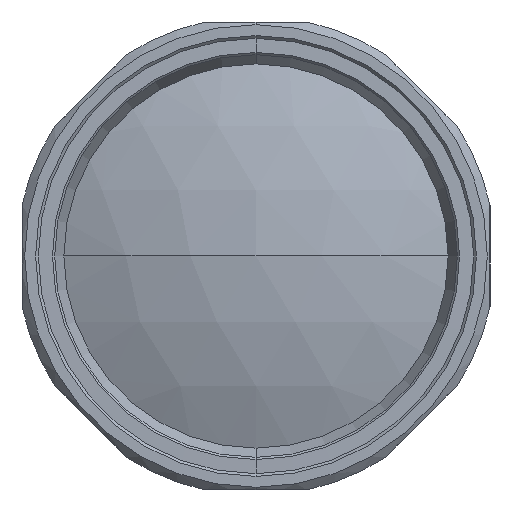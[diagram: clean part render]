
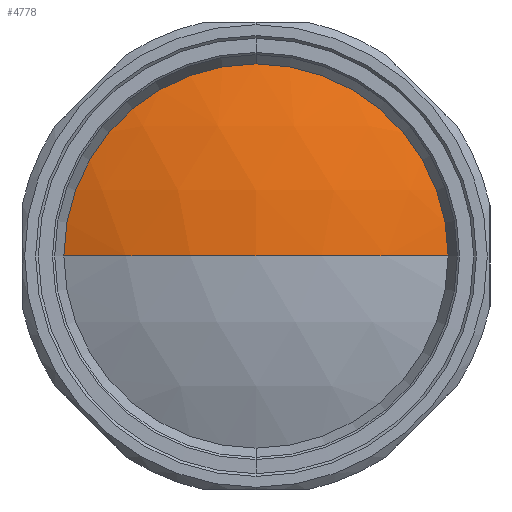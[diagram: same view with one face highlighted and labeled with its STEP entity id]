
A CAD part, left-side view. The second image highlights one B-rep face of the part: STEP entity #4778.
In plain terms, the highlighted spherical face has radius 44.86 mm.
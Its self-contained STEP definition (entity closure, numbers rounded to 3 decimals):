
#35 = ORIENTED_EDGE ( 'NONE', *, *, #2235, .F. ) ;
#138 = AXIS2_PLACEMENT_3D ( 'NONE', #5263, #1984, #4864 ) ;
#156 = ORIENTED_EDGE ( 'NONE', *, *, #1044, .T. ) ;
#544 = AXIS2_PLACEMENT_3D ( 'NONE', #1603, #5334, #3662 ) ;
#552 = AXIS2_PLACEMENT_3D ( 'NONE', #3385, #2563, #1356 ) ;
#778 = CARTESIAN_POINT ( 'NONE',  ( -12.572, 21.802, 49.734 ) ) ;
#790 = VERTEX_POINT ( 'NONE', #3766 ) ;
#794 = CIRCLE ( 'NONE', #4973, 44.86 ) ;
#954 = VERTEX_POINT ( 'NONE', #778 ) ;
#1044 = EDGE_CURVE ( 'NONE', #2493, #790, #1533, .T. ) ;
#1192 = AXIS2_PLACEMENT_3D ( 'NONE', #4480, #4898, #4537 ) ;
#1324 = FACE_OUTER_BOUND ( 'NONE', #3274, .T. ) ;
#1329 = CIRCLE ( 'NONE', #544, 17.65 ) ;
#1356 = DIRECTION ( 'NONE',  ( 0., 0., -1. ) ) ;
#1533 = CIRCLE ( 'NONE', #1192, 44.86 ) ;
#1551 = ORIENTED_EDGE ( 'NONE', *, *, #4447, .F. ) ;
#1603 = CARTESIAN_POINT ( 'NONE',  ( -12.572, 4.152, 49.734 ) ) ;
#1742 = CIRCLE ( 'NONE', #552, 17.65 ) ;
#1984 = DIRECTION ( 'NONE',  ( 0., 0., 1. ) ) ;
#2027 = CARTESIAN_POINT ( 'NONE',  ( -12.572, 4.152, 67.384 ) ) ;
#2235 = EDGE_CURVE ( 'NONE', #4262, #790, #1329, .T. ) ;
#2493 = VERTEX_POINT ( 'NONE', #4264 ) ;
#2563 = DIRECTION ( 'NONE',  ( 1., 0., 0. ) ) ;
#3274 = EDGE_LOOP ( 'NONE', ( #1551, #156, #35, #4846 ) ) ;
#3385 = CARTESIAN_POINT ( 'NONE',  ( -12.572, 4.152, 49.734 ) ) ;
#3543 = EDGE_CURVE ( 'NONE', #954, #4262, #1742, .T. ) ;
#3662 = DIRECTION ( 'NONE',  ( 0., 0., -1. ) ) ;
#3766 = CARTESIAN_POINT ( 'NONE',  ( -12.572, -13.498, 49.734 ) ) ;
#4262 = VERTEX_POINT ( 'NONE', #2027 ) ;
#4264 = CARTESIAN_POINT ( 'NONE',  ( -16.19, 4.152, 49.734 ) ) ;
#4447 = EDGE_CURVE ( 'NONE', #2493, #954, #794, .T. ) ;
#4480 = CARTESIAN_POINT ( 'NONE',  ( 28.67, 4.152, 49.734 ) ) ;
#4537 = DIRECTION ( 'NONE',  ( 0., -1., 0. ) ) ;
#4654 = CARTESIAN_POINT ( 'NONE',  ( 28.67, 4.152, 49.734 ) ) ;
#4778 = ADVANCED_FACE ( 'NONE', ( #1324 ), #5121, .T. ) ;
#4846 = ORIENTED_EDGE ( 'NONE', *, *, #3543, .F. ) ;
#4864 = DIRECTION ( 'NONE',  ( 0., 1., 0. ) ) ;
#4898 = DIRECTION ( 'NONE',  ( 0., 0., 1. ) ) ;
#4973 = AXIS2_PLACEMENT_3D ( 'NONE', #4654, #5066, #4993 ) ;
#4993 = DIRECTION ( 'NONE',  ( -1., 0., 0. ) ) ;
#5066 = DIRECTION ( 'NONE',  ( 0., 0., -1. ) ) ;
#5121 = SPHERICAL_SURFACE ( 'NONE', #138, 44.86 ) ;
#5263 = CARTESIAN_POINT ( 'NONE',  ( 28.67, 4.152, 49.734 ) ) ;
#5334 = DIRECTION ( 'NONE',  ( 1., 0., 0. ) ) ;
